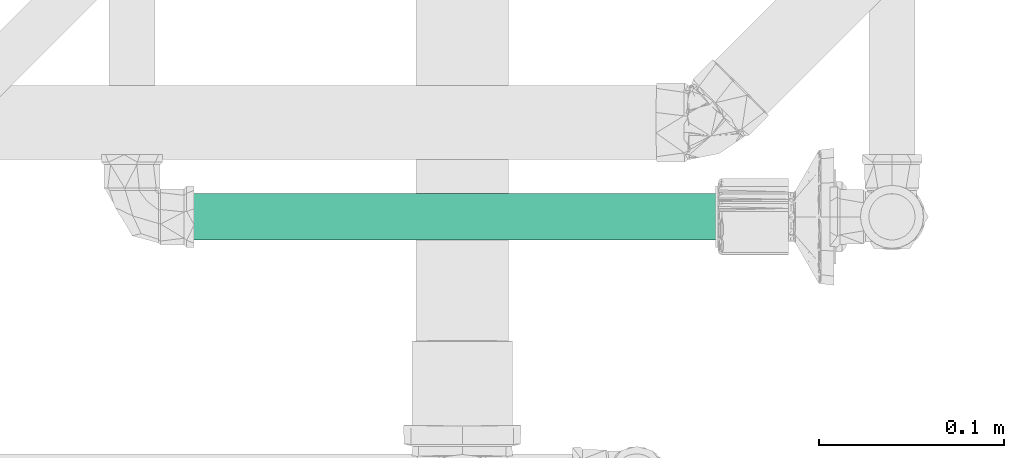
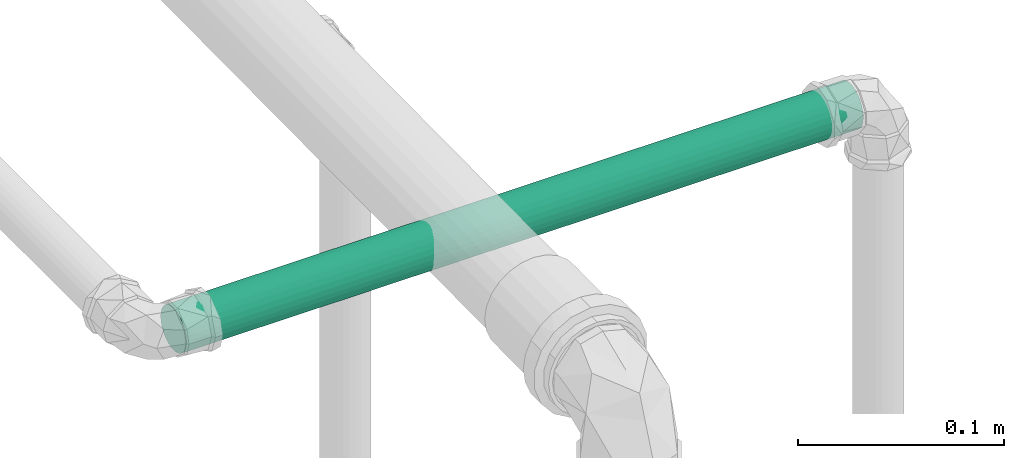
# One storey, part 47 of 589: 1 flow segment.
"""IFC2X3 building model written with IfcOpenShell, lengths in millimetres."""

from ifc_helpers import new_model, entity, si_unit, converted_unit, derived_unit, direction, frame, frame_2d, origin, place, context, subcontext, project, spatial, circle, extrude, type_object, element, save


model = new_model("IFC2X3")

# Units and contexts
model_context = context("Model", 3, precision=0.01, world=origin(), true_north=direction((6.123031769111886e-17, 1.0)))
body_context = subcontext(model_context, "Body", "Model", "MODEL_VIEW")
ifc_project = project(units=[si_unit("LENGTHUNIT", "METRE", prefix="MILLI"), si_unit("AREAUNIT", "SQUARE_METRE"), si_unit("VOLUMEUNIT", "CUBIC_METRE"), converted_unit("PLANEANGLEUNIT", "DEGREE", entity("IfcRatioMeasure", 0.017453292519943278), si_unit("PLANEANGLEUNIT", "RADIAN"), dimensions=[0, 0, 0, 0, 0, 0, 0]), si_unit("MASSUNIT", "GRAM", prefix="KILO"), derived_unit("MASSDENSITYUNIT", [(si_unit("MASSUNIT", "GRAM", prefix="KILO"), 1), (si_unit("LENGTHUNIT", "METRE"), -3)]), derived_unit("IONCONCENTRATIONUNIT", [(si_unit("MASSUNIT", "GRAM", prefix="KILO"), 1), (si_unit("LENGTHUNIT", "METRE"), -3)]), derived_unit("MOMENTOFINERTIAUNIT", [(si_unit("LENGTHUNIT", "METRE"), 4)]), si_unit("TIMEUNIT", "SECOND"), si_unit("FREQUENCYUNIT", "HERTZ"), si_unit("THERMODYNAMICTEMPERATUREUNIT", "DEGREE_CELSIUS"), derived_unit("THERMALTRANSMITTANCEUNIT", [(si_unit("MASSUNIT", "GRAM", prefix="KILO"), 1), (si_unit("THERMODYNAMICTEMPERATUREUNIT", "KELVIN"), -1), (si_unit("TIMEUNIT", "SECOND"), -3)]), derived_unit("THERMALCONDUCTANCEUNIT", [(si_unit("MASSUNIT", "GRAM", prefix="KILO"), 1), (si_unit("THERMODYNAMICTEMPERATUREUNIT", "KELVIN"), -1), (si_unit("TIMEUNIT", "SECOND"), -3), (si_unit("LENGTHUNIT", "METRE"), 1)]), derived_unit("VOLUMETRICFLOWRATEUNIT", [(si_unit("LENGTHUNIT", "METRE"), 3), (si_unit("TIMEUNIT", "SECOND"), -1)]), derived_unit("MASSFLOWRATEUNIT", [(si_unit("MASSUNIT", "GRAM", prefix="KILO"), 1), (si_unit("TIMEUNIT", "SECOND"), -1)]), derived_unit("ROTATIONALFREQUENCYUNIT", [(si_unit("TIMEUNIT", "SECOND"), -1)]), si_unit("ELECTRICCURRENTUNIT", "AMPERE"), si_unit("ELECTRICVOLTAGEUNIT", "VOLT"), si_unit("POWERUNIT", "WATT"), si_unit("FORCEUNIT", "NEWTON", prefix="KILO"), si_unit("ILLUMINANCEUNIT", "LUX"), si_unit("LUMINOUSFLUXUNIT", "LUMEN"), si_unit("LUMINOUSINTENSITYUNIT", "CANDELA"), derived_unit("USERDEFINED", [(si_unit("MASSUNIT", "GRAM", prefix="KILO"), -1), (si_unit("LENGTHUNIT", "METRE"), -2), (si_unit("TIMEUNIT", "SECOND"), 3), (si_unit("LUMINOUSFLUXUNIT", "LUMEN"), 1)]), derived_unit("USERDEFINED", [(si_unit("MASSUNIT", "GRAM", prefix="KILO"), 1), (si_unit("TIMEUNIT", "SECOND"), -3), (si_unit("LENGTHUNIT", "METRE"), 3), (si_unit("ELECTRICCURRENTUNIT", "AMPERE"), -2)]), derived_unit("SOUNDPOWERUNIT", [(si_unit("MASSUNIT", "GRAM", prefix="KILO"), 1), (si_unit("TIMEUNIT", "SECOND"), -3), (si_unit("LENGTHUNIT", "METRE"), 2)]), derived_unit("SOUNDPRESSUREUNIT", [(si_unit("MASSUNIT", "GRAM", prefix="KILO"), 1), (si_unit("LENGTHUNIT", "METRE"), -1), (si_unit("TIMEUNIT", "SECOND"), -2)]), derived_unit("LINEARVELOCITYUNIT", [(si_unit("LENGTHUNIT", "METRE"), 1), (si_unit("TIMEUNIT", "SECOND"), -1)]), si_unit("PRESSUREUNIT", "PASCAL"), derived_unit("USERDEFINED", [(si_unit("MASSUNIT", "GRAM", prefix="KILO"), 1), (si_unit("LENGTHUNIT", "METRE"), -2), (si_unit("TIMEUNIT", "SECOND"), -2)]), derived_unit("LINEARFORCEUNIT", [(si_unit("MASSUNIT", "GRAM", prefix="KILO"), 1), (si_unit("TIMEUNIT", "SECOND"), -2)]), derived_unit("PLANARFORCEUNIT", [(si_unit("MASSUNIT", "GRAM", prefix="KILO"), 1), (si_unit("LENGTHUNIT", "METRE"), -1), (si_unit("TIMEUNIT", "SECOND"), -2)]), derived_unit("SPECIFICHEATCAPACITYUNIT", [(si_unit("THERMODYNAMICTEMPERATUREUNIT", "KELVIN"), -1), (si_unit("LENGTHUNIT", "METRE"), 2), (si_unit("TIMEUNIT", "SECOND"), -2)]), derived_unit("HEATINGVALUEUNIT", [(si_unit("LENGTHUNIT", "METRE"), 2), (si_unit("TIMEUNIT", "SECOND"), -2)]), derived_unit("VAPORPERMEABILITYUNIT", [(si_unit("LENGTHUNIT", "METRE"), -1), (si_unit("TIMEUNIT", "SECOND"), 1)]), derived_unit("DYNAMICVISCOSITYUNIT", [(si_unit("MASSUNIT", "GRAM", prefix="KILO"), 1), (si_unit("TIMEUNIT", "SECOND"), -1), (si_unit("LENGTHUNIT", "METRE"), -1)]), derived_unit("THERMALEXPANSIONCOEFFICIENTUNIT", [(si_unit("THERMODYNAMICTEMPERATUREUNIT", "KELVIN"), -1)]), derived_unit("MODULUSOFELASTICITYUNIT", [(si_unit("MASSUNIT", "GRAM", prefix="KILO"), 1), (si_unit("LENGTHUNIT", "METRE"), -1), (si_unit("TIMEUNIT", "SECOND"), -2)]), derived_unit("ISOTHERMALMOISTURECAPACITYUNIT", [(si_unit("LENGTHUNIT", "METRE"), 3), (si_unit("MASSUNIT", "GRAM", prefix="KILO"), -1)]), derived_unit("MOISTUREDIFFUSIVITYUNIT", [(si_unit("TIMEUNIT", "SECOND"), -1), (si_unit("LENGTHUNIT", "METRE"), 2)])], contexts=[model_context])

# Site, building, storey
site_placement = place(None, origin())
site = spatial("IfcSite", under=ifc_project, at=site_placement, Name="Default", CompositionType="ELEMENT")
building_placement = place(site_placement, origin())
building = spatial("IfcBuilding", under=site, at=building_placement, CompositionType="ELEMENT")
storey_placement = place(building_placement, frame((0.0, 0.0, 100.0)))
storey = spatial("IfcBuildingStorey", under=building, at=storey_placement, Name="TÉRREO", CompositionType="ELEMENT", Elevation=100.0)

# Flow segment
pipe_segment_type = type_object("IfcPipeSegmentType", Name="Tipos de tubos:PVC Marrom Soldável", PredefinedType="NOTDEFINED")
flow_segment_placement = place(storey_placement, origin())
element("IfcFlowSegment", 1, at=flow_segment_placement, inside=storey, type_object=pipe_segment_type, Name="Tipos de tubos:PVC Marrom Soldável", ObjectType="Tipos de tubos:PVC Marrom Soldável", context=body_context, shape_type="SweptSolid", body=[
    extrude(circle(Radius=12.5, at=frame_2d((1.0828671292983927e-12, 0.0), x_axis=(1.0, 0.0))), frame((-53.04113287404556, -7747.531283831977, 2970.0), z_axis=(1.0, 0.0, 0.0), x_axis=(0.0, 1.0, 0.0)), (0.0, 0.0, 1.0), 379.0835250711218),
])

save(model, "model.ifc")
